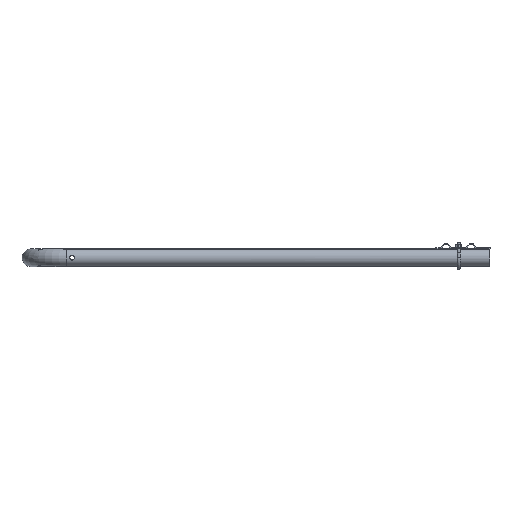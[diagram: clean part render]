
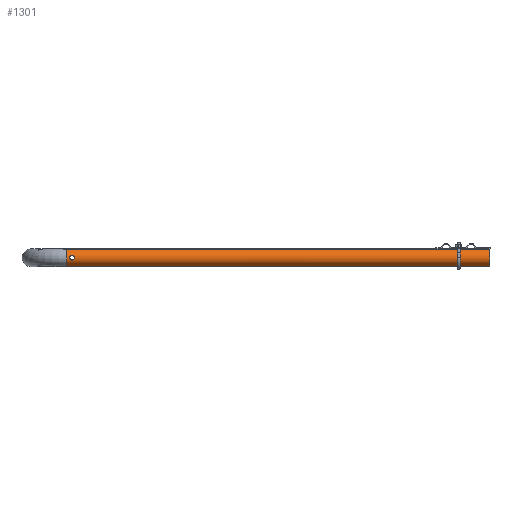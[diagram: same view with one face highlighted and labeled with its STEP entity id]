
A CAD part, left-side view. The second image highlights one B-rep face of the part: STEP entity #1301.
In plain terms, the highlighted cylindrical face has radius 21.2 mm (diameter 42.4 mm), a full revolution.
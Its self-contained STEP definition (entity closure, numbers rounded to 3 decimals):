
#192=CARTESIAN_POINT('',(20.474,1001.2,-5.5));
#193=VERTEX_POINT('',#192);
#194=CARTESIAN_POINT('',(20.474,1001.2,-5.5));
#195=CARTESIAN_POINT('',(20.474,1000.506,-5.5));
#196=CARTESIAN_POINT('',(20.513,999.768,-5.361));
#197=CARTESIAN_POINT('',(20.652,998.414,-4.798));
#198=CARTESIAN_POINT('',(20.749,997.797,-4.376));
#199=CARTESIAN_POINT('',(20.931,996.824,-3.403));
#200=CARTESIAN_POINT('',(21.027,996.402,-2.786));
#201=CARTESIAN_POINT('',(21.163,995.839,-1.432));
#202=CARTESIAN_POINT('',(21.2,995.7,-0.694));
#203=CARTESIAN_POINT('',(21.2,995.7,0.694));
#204=CARTESIAN_POINT('',(21.163,995.839,1.432));
#205=CARTESIAN_POINT('',(21.027,996.402,2.786));
#206=CARTESIAN_POINT('',(20.931,996.824,3.403));
#207=CARTESIAN_POINT('',(20.749,997.797,4.376));
#208=CARTESIAN_POINT('',(20.652,998.414,4.798));
#209=CARTESIAN_POINT('',(20.513,999.768,5.361));
#210=CARTESIAN_POINT('',(20.474,1000.506,5.5));
#211=CARTESIAN_POINT('',(20.474,1001.894,5.5));
#212=CARTESIAN_POINT('',(20.513,1002.632,5.361));
#213=CARTESIAN_POINT('',(20.652,1003.986,4.798));
#214=CARTESIAN_POINT('',(20.749,1004.603,4.376));
#215=CARTESIAN_POINT('',(20.931,1005.576,3.403));
#216=CARTESIAN_POINT('',(21.027,1005.998,2.786));
#217=CARTESIAN_POINT('',(21.163,1006.561,1.432));
#218=CARTESIAN_POINT('',(21.2,1006.7,0.694));
#219=CARTESIAN_POINT('',(21.2,1006.7,-0.694));
#220=CARTESIAN_POINT('',(21.163,1006.561,-1.432));
#221=CARTESIAN_POINT('',(21.027,1005.998,-2.786));
#222=CARTESIAN_POINT('',(20.931,1005.576,-3.403));
#223=CARTESIAN_POINT('',(20.749,1004.603,-4.376));
#224=CARTESIAN_POINT('',(20.652,1003.986,-4.798));
#225=CARTESIAN_POINT('',(20.513,1002.632,-5.361));
#226=CARTESIAN_POINT('',(20.474,1001.894,-5.5));
#227=CARTESIAN_POINT('',(20.474,1001.2,-5.5));
#228=B_SPLINE_CURVE_WITH_KNOTS('',3,(#194,#195,#196,#197,#198,#199,#200,#201,#202,#203,#204,#205,#206,#207,#208,#209,#210,#211,#212,#213,#214,#215,#216,#217,#218,#219,#220,#221,#222,#223,#224,#225,#226,#227),.UNSPECIFIED.,.T.,.U.,(4,2,2,2,2,2,2,2,2,2,2,2,2,2,2,2,4),(0.0,0.208,0.416,0.625,0.833,1.041,1.249,1.457,1.666,1.874,2.082,2.29,2.498,2.707,2.915,3.123,3.331),.UNSPECIFIED.);
#229=EDGE_CURVE('',#193,#193,#228,.T.);
#280=CARTESIAN_POINT('',(-20.474,1001.2,-5.5));
#281=VERTEX_POINT('',#280);
#282=CARTESIAN_POINT('',(-20.474,1001.2,-5.5));
#283=CARTESIAN_POINT('',(-20.474,1001.894,-5.5));
#284=CARTESIAN_POINT('',(-20.513,1002.632,-5.361));
#285=CARTESIAN_POINT('',(-20.652,1003.986,-4.798));
#286=CARTESIAN_POINT('',(-20.749,1004.603,-4.376));
#287=CARTESIAN_POINT('',(-20.931,1005.576,-3.403));
#288=CARTESIAN_POINT('',(-21.027,1005.998,-2.786));
#289=CARTESIAN_POINT('',(-21.163,1006.561,-1.432));
#290=CARTESIAN_POINT('',(-21.2,1006.7,-0.694));
#291=CARTESIAN_POINT('',(-21.2,1006.7,0.694));
#292=CARTESIAN_POINT('',(-21.163,1006.561,1.432));
#293=CARTESIAN_POINT('',(-21.027,1005.998,2.786));
#294=CARTESIAN_POINT('',(-20.931,1005.576,3.403));
#295=CARTESIAN_POINT('',(-20.749,1004.603,4.376));
#296=CARTESIAN_POINT('',(-20.652,1003.986,4.798));
#297=CARTESIAN_POINT('',(-20.513,1002.632,5.361));
#298=CARTESIAN_POINT('',(-20.474,1001.894,5.5));
#299=CARTESIAN_POINT('',(-20.474,1000.506,5.5));
#300=CARTESIAN_POINT('',(-20.513,999.768,5.361));
#301=CARTESIAN_POINT('',(-20.652,998.414,4.798));
#302=CARTESIAN_POINT('',(-20.749,997.797,4.376));
#303=CARTESIAN_POINT('',(-20.931,996.824,3.403));
#304=CARTESIAN_POINT('',(-21.027,996.402,2.786));
#305=CARTESIAN_POINT('',(-21.163,995.839,1.432));
#306=CARTESIAN_POINT('',(-21.2,995.7,0.694));
#307=CARTESIAN_POINT('',(-21.2,995.7,-0.694));
#308=CARTESIAN_POINT('',(-21.163,995.839,-1.432));
#309=CARTESIAN_POINT('',(-21.027,996.402,-2.786));
#310=CARTESIAN_POINT('',(-20.931,996.824,-3.403));
#311=CARTESIAN_POINT('',(-20.749,997.797,-4.376));
#312=CARTESIAN_POINT('',(-20.652,998.414,-4.798));
#313=CARTESIAN_POINT('',(-20.513,999.768,-5.361));
#314=CARTESIAN_POINT('',(-20.474,1000.506,-5.5));
#315=CARTESIAN_POINT('',(-20.474,1001.2,-5.5));
#316=B_SPLINE_CURVE_WITH_KNOTS('',3,(#282,#283,#284,#285,#286,#287,#288,#289,#290,#291,#292,#293,#294,#295,#296,#297,#298,#299,#300,#301,#302,#303,#304,#305,#306,#307,#308,#309,#310,#311,#312,#313,#314,#315),.UNSPECIFIED.,.T.,.U.,(4,2,2,2,2,2,2,2,2,2,2,2,2,2,2,2,4),(0.0,0.208,0.416,0.625,0.833,1.041,1.249,1.457,1.666,1.874,2.082,2.29,2.498,2.707,2.915,3.123,3.331),.UNSPECIFIED.);
#317=EDGE_CURVE('',#281,#281,#316,.T.);
#1264=CARTESIAN_POINT('',(-21.2,1013.5,0.));
#1265=VERTEX_POINT('',#1264);
#1266=CARTESIAN_POINT('',(0.0,1013.5,0.0));
#1267=DIRECTION('',(0.0,-1.0,0.0));
#1268=DIRECTION('',(1.0,0.0,0.0));
#1269=AXIS2_PLACEMENT_3D('',#1266,#1267,#1268);
#1270=CIRCLE('',#1269,21.2);
#1271=EDGE_CURVE('',#1265,#1265,#1270,.T.);
#1276=CARTESIAN_POINT('',(0.0,0.0,0.0));
#1277=DIRECTION('',(0.0,1.0,0.0));
#1278=DIRECTION('',(1.0,0.0,0.0));
#1279=AXIS2_PLACEMENT_3D('',#1276,#1277,#1278);
#1280=CYLINDRICAL_SURFACE('',#1279,21.2);
#1281=ORIENTED_EDGE('',*,*,#1271,.T.);
#1282=EDGE_LOOP('',(#1281));
#1283=FACE_OUTER_BOUND('',#1282,.T.);
#1284=ORIENTED_EDGE('',*,*,#229,.T.);
#1285=EDGE_LOOP('',(#1284));
#1286=FACE_BOUND('',#1285,.T.);
#1287=ORIENTED_EDGE('',*,*,#317,.T.);
#1288=EDGE_LOOP('',(#1287));
#1289=FACE_BOUND('',#1288,.T.);
#1290=CARTESIAN_POINT('',(-21.2,0.0,0.));
#1291=VERTEX_POINT('',#1290);
#1292=CARTESIAN_POINT('',(0.0,0.0,0.0));
#1293=DIRECTION('',(0.0,-1.0,0.0));
#1294=DIRECTION('',(1.0,0.0,0.0));
#1295=AXIS2_PLACEMENT_3D('',#1292,#1293,#1294);
#1296=CIRCLE('',#1295,21.2);
#1297=EDGE_CURVE('',#1291,#1291,#1296,.T.);
#1298=ORIENTED_EDGE('',*,*,#1297,.F.);
#1299=EDGE_LOOP('',(#1298));
#1300=FACE_BOUND('',#1299,.T.);
#1301=ADVANCED_FACE('',(#1283,#1286,#1289,#1300),#1280,.T.);
